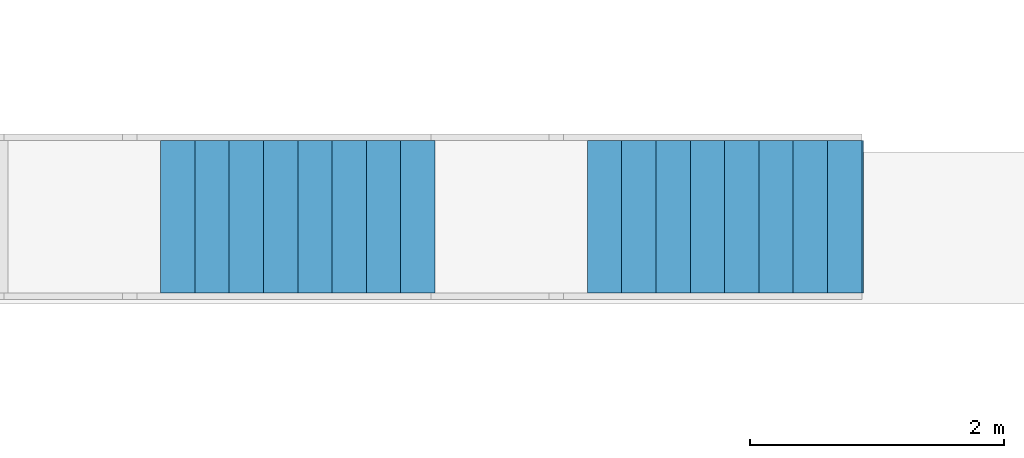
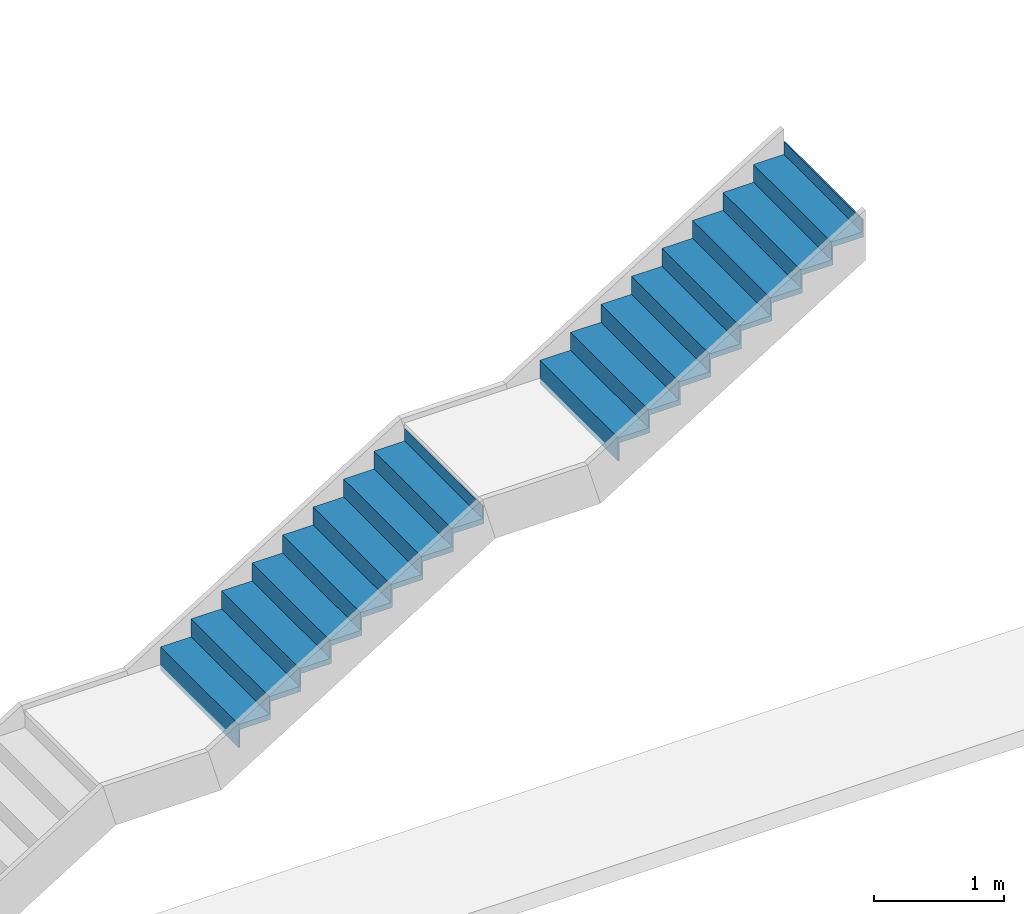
# One storey, part 8 of 16: 2 stair flights, 1 element without a shape of its own.
"""IFC2X3 building model written with IfcOpenShell, lengths in millimetres."""

from ifc_helpers import new_model, entity, si_unit, converted_unit, derived_unit, direction, frame, frame_2d, origin, origin_2d_with_axis, place, context, subcontext, project, spatial, rectangle, extrude, element, aggregate, save


model = new_model("IFC2X3")

# Units and contexts
model_context = context("Model", 3, precision=0.01, world=origin(), true_north=direction((4.05803320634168e-15, -1.0)))
body_context = subcontext(model_context, "Body", "Model", "MODEL_VIEW")
ifc_project = project(units=[si_unit("LENGTHUNIT", "METRE", prefix="MILLI"), si_unit("AREAUNIT", "SQUARE_METRE"), si_unit("VOLUMEUNIT", "CUBIC_METRE"), converted_unit("PLANEANGLEUNIT", "DEGREE", entity("IfcRatioMeasure", 0.0174532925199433), si_unit("PLANEANGLEUNIT", "RADIAN"), dimensions=[0, 0, 0, 0, 0, 0, 0]), si_unit("MASSUNIT", "GRAM", prefix="KILO"), derived_unit("MASSDENSITYUNIT", [(si_unit("MASSUNIT", "GRAM", prefix="KILO"), 1), (si_unit("LENGTHUNIT", "METRE"), -3)]), si_unit("TIMEUNIT", "SECOND"), si_unit("FREQUENCYUNIT", "HERTZ"), si_unit("THERMODYNAMICTEMPERATUREUNIT", "DEGREE_CELSIUS"), derived_unit("THERMALTRANSMITTANCEUNIT", [(si_unit("MASSUNIT", "GRAM", prefix="KILO"), 1), (si_unit("THERMODYNAMICTEMPERATUREUNIT", "KELVIN"), -1), (si_unit("TIMEUNIT", "SECOND"), -3)]), derived_unit("VOLUMETRICFLOWRATEUNIT", [(si_unit("LENGTHUNIT", "METRE"), 3), (si_unit("TIMEUNIT", "SECOND"), -1)]), si_unit("ELECTRICCURRENTUNIT", "AMPERE"), si_unit("ELECTRICVOLTAGEUNIT", "VOLT"), si_unit("POWERUNIT", "WATT"), si_unit("FORCEUNIT", "NEWTON", prefix="KILO"), si_unit("ILLUMINANCEUNIT", "LUX"), si_unit("LUMINOUSFLUXUNIT", "LUMEN"), si_unit("LUMINOUSINTENSITYUNIT", "CANDELA"), derived_unit("USERDEFINED", [(si_unit("MASSUNIT", "GRAM", prefix="KILO"), -1), (si_unit("LENGTHUNIT", "METRE"), -2), (si_unit("TIMEUNIT", "SECOND"), 3), (si_unit("LUMINOUSFLUXUNIT", "LUMEN"), 1)]), derived_unit("LINEARVELOCITYUNIT", [(si_unit("LENGTHUNIT", "METRE"), 1), (si_unit("TIMEUNIT", "SECOND"), -1)]), si_unit("PRESSUREUNIT", "PASCAL"), derived_unit("USERDEFINED", [(si_unit("LENGTHUNIT", "METRE"), -2), (si_unit("MASSUNIT", "GRAM", prefix="KILO"), 1), (si_unit("TIMEUNIT", "SECOND"), -2)])], contexts=[model_context])

# Site, building, storey
site_placement = place(None, frame((927466.849349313, 583801.882853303, 0.0), z_axis=(0.0, 0.0, 1.0), x_axis=(-1.0, 0.0, 0.0)))
site = spatial("IfcSite", under=ifc_project, at=site_placement, Name="Surface", CompositionType="ELEMENT")
building_placement = place(site_placement, origin())
building = spatial("IfcBuilding", under=site, at=building_placement, CompositionType="ELEMENT")
storey_placement = place(building_placement, frame((0.0, 0.0, 42810.0)))
storey = spatial("IfcBuildingStorey", under=building, at=storey_placement, Name="Hardstand", CompositionType="ELEMENT", Elevation=42810.0)

# Stair, stair flights
stair_placement = place(storey_placement, origin())
stair = element("IfcStair", 1, at=stair_placement, inside=storey, Name="Assembled Stair:Stair", ObjectType="Assembled Stair:170mm max riser 270mm going", ShapeType="NOTDEFINED")
stair_flight_1_placement = place(stair_placement, origin())
stair_flight_1 = element("IfcStairFlight", 2, at=stair_flight_1_placement, Name="Assembled Stair:Stair:622611 Run 1", ObjectType="Assembled Stair:170mm max riser 270mm going", NumberOfRiser=9, NumberOfTreads=8, RiserHeight=0.549540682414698, TreadLength=0.885826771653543, context=body_context, shape_type="SweptSolid", body=[
    extrude(rectangle(XDim=1200.0, YDim=12.5000000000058, at=frame_2d((4.32009983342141e-12, 0.0), x_axis=(1.0, 0.0))), frame((-106824.121944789, 37578.2777512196, 3802.49999999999), z_axis=(0.0, 0.0, 1.0), x_axis=(0.0, -1.0, 0.0)), (0.0, 0.0, 1.0), 167.500000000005),
    extrude(rectangle(XDim=270.000000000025, YDim=1200.0, at=frame_2d((-8.66862137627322e-12, -4.32009983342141e-12), x_axis=(1.0, 0.0))), frame((-106952.871944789, 37578.2777512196, 3970.0)), (0.0, 0.0, 1.0), 49.9999999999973),
    extrude(rectangle(XDim=1200.0, YDim=12.5000000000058, at=frame_2d((4.32009983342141e-12, -8.66329230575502e-12), x_axis=(1.0, 0.0))), frame((-107094.121944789, 37578.2777512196, 3970.0), z_axis=(0.0, 0.0, 1.0), x_axis=(0.0, -1.0, 0.0)), (0.0, 0.0, 1.0), 167.500000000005),
    extrude(rectangle(XDim=269.999999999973, YDim=1200.0, at=frame_2d((1.73230318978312e-11, -4.32009983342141e-12), x_axis=(1.0, 0.0))), frame((-107222.871944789, 37578.2777512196, 4137.5)), (0.0, 0.0, 1.0), 49.9999999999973),
    extrude(rectangle(XDim=1200.0, YDim=12.5000000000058, at=frame_2d((4.32009983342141e-12, 8.66329230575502e-12), x_axis=(1.0, 0.0))), frame((-107364.121944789, 37578.2777512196, 4137.49999999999), z_axis=(0.0, 0.0, 1.0), x_axis=(0.0, -1.0, 0.0)), (0.0, 0.0, 1.0), 167.500000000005),
    extrude(rectangle(XDim=269.999999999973, YDim=1200.0, at=frame_2d((0.0, -4.32009983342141e-12), x_axis=(1.0, 0.0))), frame((-107492.871944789, 37578.2777512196, 4305.0)), (0.0, 0.0, 1.0), 49.9999999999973),
    extrude(rectangle(XDim=1200.0, YDim=12.5000000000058, at=frame_2d((0.0, 8.66329230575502e-12), x_axis=(1.0, 0.0))), frame((-107634.121944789, 37578.2777512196, 4305.0), z_axis=(0.0, 0.0, 1.0), x_axis=(0.0, -1.0, 0.0)), (0.0, 0.0, 1.0), 167.500000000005),
    extrude(rectangle(XDim=269.999999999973, YDim=1200.0, at=frame_2d((1.73230318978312e-11, 0.0), x_axis=(1.0, 0.0))), frame((-107762.871944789, 37578.2777512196, 4472.50000000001)), (0.0, 0.0, 1.0), 49.9999999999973),
    extrude(rectangle(XDim=1200.0, YDim=12.5000000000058, at=frame_2d((0.0, -8.66329230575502e-12), x_axis=(1.0, 0.0))), frame((-107904.121944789, 37578.2777512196, 4472.5), z_axis=(0.0, 0.0, 1.0), x_axis=(0.0, -1.0, 0.0)), (0.0, 0.0, 1.0), 167.500000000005),
    extrude(rectangle(XDim=269.999999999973, YDim=1200.0, at=origin_2d_with_axis()), frame((-108032.871944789, 37578.2777512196, 4640.0)), (0.0, 0.0, 1.0), 49.9999999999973),
    extrude(rectangle(XDim=1200.0, YDim=12.5000000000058, at=frame_2d((0.0, 8.66329230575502e-12), x_axis=(1.0, 0.0))), frame((-108174.121944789, 37578.2777512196, 4640.0), z_axis=(0.0, 0.0, 1.0), x_axis=(0.0, -1.0, 0.0)), (0.0, 0.0, 1.0), 167.500000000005),
    extrude(rectangle(XDim=269.999999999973, YDim=1200.0, at=origin_2d_with_axis()), frame((-108302.871944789, 37578.2777512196, 4807.5)), (0.0, 0.0, 1.0), 49.9999999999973),
    extrude(rectangle(XDim=1200.0, YDim=12.5000000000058, at=frame_2d((0.0, -8.66329230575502e-12), x_axis=(1.0, 0.0))), frame((-108444.121944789, 37578.2777512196, 4807.5), z_axis=(0.0, 0.0, 1.0), x_axis=(0.0, -1.0, 0.0)), (0.0, 0.0, 1.0), 167.500000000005),
    extrude(rectangle(XDim=269.999999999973, YDim=1200.0, at=frame_2d((1.73230318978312e-11, -4.32009983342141e-12), x_axis=(1.0, 0.0))), frame((-108572.871944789, 37578.2777512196, 4975.0)), (0.0, 0.0, 1.0), 49.9999999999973),
    extrude(rectangle(XDim=1200.0, YDim=12.5000000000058, at=frame_2d((0.0, -8.66329230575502e-12), x_axis=(1.0, 0.0))), frame((-108714.121944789, 37578.2777512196, 4975.0), z_axis=(0.0, 0.0, 1.0), x_axis=(0.0, -1.0, 0.0)), (0.0, 0.0, 1.0), 167.500000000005),
    extrude(rectangle(XDim=1200.0, YDim=12.5000000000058, at=origin_2d_with_axis()), frame((-108984.121944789, 37578.2777512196, 5142.5), z_axis=(0.0, 0.0, 1.0), x_axis=(0.0, -1.0, 0.0)), (0.0, 0.0, 1.0), 167.499999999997),
    extrude(rectangle(XDim=269.999999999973, YDim=1200.0, at=frame_2d((0.0, -4.32009983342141e-12), x_axis=(1.0, 0.0))), frame((-108842.871944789, 37578.2777512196, 5142.5)), (0.0, 0.0, 1.0), 49.9999999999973),
])
stair_flight_2_placement = place(stair_placement, origin())
stair_flight_2 = element("IfcStairFlight", 3, at=stair_flight_2_placement, Name="Assembled Stair:Stair:622611 Run 2", ObjectType="Assembled Stair:170mm max riser 270mm going", NumberOfRiser=9, NumberOfTreads=8, RiserHeight=0.549540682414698, TreadLength=0.885826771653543, context=body_context, shape_type="SweptSolid", body=[
    extrude(rectangle(XDim=1200.0, YDim=12.5000000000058, at=frame_2d((-4.32009983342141e-12, 0.0), x_axis=(1.0, 0.0))), frame((-103464.121944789, 37578.2777512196, 2295.0), z_axis=(0.0, 0.0, 1.0), x_axis=(0.0, -1.0, 0.0)), (0.0, 0.0, 1.0), 167.500000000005),
    extrude(rectangle(XDim=270.000000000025, YDim=1200.0, at=frame_2d((-8.66862137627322e-12, 4.32009983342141e-12), x_axis=(1.0, 0.0))), frame((-103592.871944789, 37578.2777512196, 2462.5)), (0.0, 0.0, 1.0), 49.9999999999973),
    extrude(rectangle(XDim=1200.0, YDim=12.5000000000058, at=frame_2d((-4.32009983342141e-12, 8.66329230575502e-12), x_axis=(1.0, 0.0))), frame((-103734.121944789, 37578.2777512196, 2462.5), z_axis=(0.0, 0.0, 1.0), x_axis=(0.0, -1.0, 0.0)), (0.0, 0.0, 1.0), 167.500000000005),
    extrude(rectangle(XDim=269.999999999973, YDim=1200.0, at=frame_2d((1.73230318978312e-11, 0.0), x_axis=(1.0, 0.0))), frame((-103862.871944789, 37578.2777512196, 2630.0)), (0.0, 0.0, 1.0), 49.9999999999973),
    extrude(rectangle(XDim=1200.0, YDim=12.5000000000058, at=frame_2d((-4.32009983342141e-12, 8.66329230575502e-12), x_axis=(1.0, 0.0))), frame((-104004.121944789, 37578.2777512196, 2630.0), z_axis=(0.0, 0.0, 1.0), x_axis=(0.0, -1.0, 0.0)), (0.0, 0.0, 1.0), 167.500000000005),
    extrude(rectangle(XDim=269.999999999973, YDim=1200.0, at=origin_2d_with_axis()), frame((-104132.871944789, 37578.2777512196, 2797.50000000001)), (0.0, 0.0, 1.0), 49.9999999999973),
    extrude(rectangle(XDim=1200.0, YDim=12.5000000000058, at=frame_2d((0.0, -8.66329230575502e-12), x_axis=(1.0, 0.0))), frame((-104274.121944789, 37578.2777512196, 2797.50000000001), z_axis=(0.0, 0.0, 1.0), x_axis=(0.0, -1.0, 0.0)), (0.0, 0.0, 1.0), 167.500000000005),
    extrude(rectangle(XDim=269.999999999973, YDim=1200.0, at=frame_2d((1.73230318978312e-11, 0.0), x_axis=(1.0, 0.0))), frame((-104402.871944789, 37578.2777512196, 2965.0)), (0.0, 0.0, 1.0), 49.9999999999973),
    extrude(rectangle(XDim=1200.0, YDim=12.5000000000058, at=frame_2d((0.0, -8.66329230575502e-12), x_axis=(1.0, 0.0))), frame((-104544.121944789, 37578.2777512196, 2965.0), z_axis=(0.0, 0.0, 1.0), x_axis=(0.0, -1.0, 0.0)), (0.0, 0.0, 1.0), 167.500000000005),
    extrude(rectangle(XDim=269.999999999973, YDim=1200.0, at=frame_2d((1.73230318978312e-11, 0.0), x_axis=(1.0, 0.0))), frame((-104672.871944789, 37578.2777512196, 3132.50000000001)), (0.0, 0.0, 1.0), 49.9999999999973),
    extrude(rectangle(XDim=1200.0, YDim=12.5000000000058, at=frame_2d((0.0, 8.66329230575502e-12), x_axis=(1.0, 0.0))), frame((-104814.121944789, 37578.2777512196, 3132.5), z_axis=(0.0, 0.0, 1.0), x_axis=(0.0, -1.0, 0.0)), (0.0, 0.0, 1.0), 167.500000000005),
    extrude(rectangle(XDim=269.999999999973, YDim=1200.0, at=origin_2d_with_axis()), frame((-104942.871944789, 37578.2777512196, 3300.0)), (0.0, 0.0, 1.0), 49.9999999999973),
    extrude(rectangle(XDim=1200.0, YDim=12.5000000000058, at=frame_2d((0.0, -8.66329230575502e-12), x_axis=(1.0, 0.0))), frame((-105084.121944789, 37578.2777512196, 3300.0), z_axis=(0.0, 0.0, 1.0), x_axis=(0.0, -1.0, 0.0)), (0.0, 0.0, 1.0), 167.500000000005),
    extrude(rectangle(XDim=269.999999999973, YDim=1200.0, at=frame_2d((0.0, -4.32009983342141e-12), x_axis=(1.0, 0.0))), frame((-105212.871944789, 37578.2777512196, 3467.50000000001)), (0.0, 0.0, 1.0), 49.9999999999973),
    extrude(rectangle(XDim=1200.0, YDim=12.5000000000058, at=frame_2d((0.0, -8.66329230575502e-12), x_axis=(1.0, 0.0))), frame((-105354.121944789, 37578.2777512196, 3467.5), z_axis=(0.0, 0.0, 1.0), x_axis=(0.0, -1.0, 0.0)), (0.0, 0.0, 1.0), 167.500000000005),
    extrude(rectangle(XDim=1200.0, YDim=12.5000000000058, at=origin_2d_with_axis()), frame((-105624.121944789, 37578.2777512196, 3635.0), z_axis=(0.0, 0.0, 1.0), x_axis=(0.0, -1.0, 0.0)), (0.0, 0.0, 1.0), 167.499999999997),
    extrude(rectangle(XDim=269.999999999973, YDim=1200.0, at=frame_2d((1.73230318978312e-11, -4.32009983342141e-12), x_axis=(1.0, 0.0))), frame((-105482.871944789, 37578.2777512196, 3635.0)), (0.0, 0.0, 1.0), 49.9999999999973),
])
aggregate(stair, [stair_flight_1, stair_flight_2])

save(model, "model.ifc")
